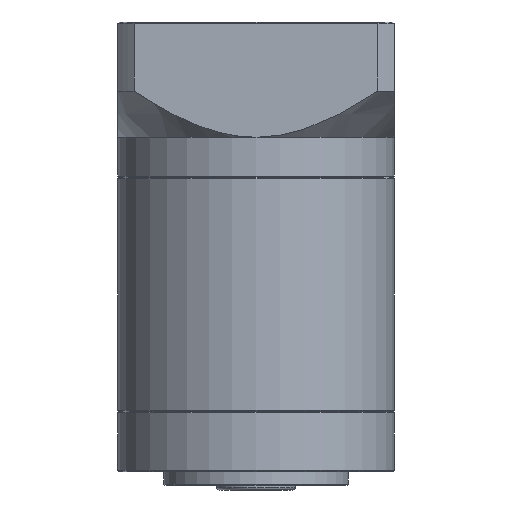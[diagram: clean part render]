
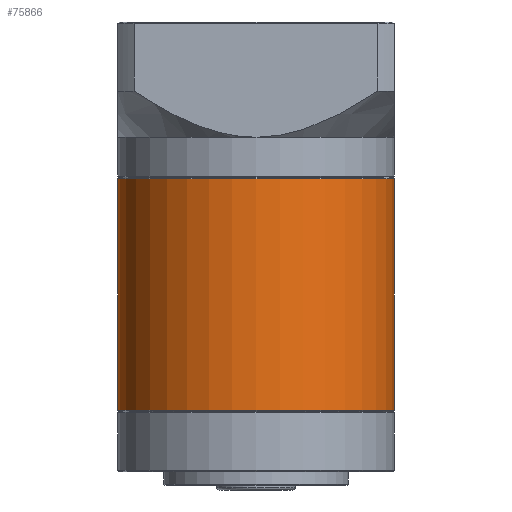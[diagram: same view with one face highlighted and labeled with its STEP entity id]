
A CAD part, front view. The second image highlights one B-rep face of the part: STEP entity #75866.
In plain terms, the highlighted cylindrical face has radius 30 mm (diameter 60 mm), a partial arc.
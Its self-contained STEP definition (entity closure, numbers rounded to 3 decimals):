
#2479 = ORIENTED_EDGE ( 'NONE', *, *, #44654, .T. ) ;
#3518 = AXIS2_PLACEMENT_3D ( 'NONE', #77942, #35964, #84967 ) ;
#12206 = EDGE_CURVE ( 'NONE', #82584, #33113, #17289, .T. ) ;
#14901 = CYLINDRICAL_SURFACE ( 'NONE', #82278, 30. ) ;
#17289 = LINE ( 'NONE', #48033, #71004 ) ;
#21564 = CARTESIAN_POINT ( 'NONE',  ( -100.553, 17.545, 4.781 ) ) ;
#22400 = VECTOR ( 'NONE', #29740, 1000. ) ;
#23689 = FACE_OUTER_BOUND ( 'NONE', #65191, .T. ) ;
#25725 = DIRECTION ( 'NONE',  ( 0., 0., 1. ) ) ;
#28777 = VERTEX_POINT ( 'NONE', #21564 ) ;
#29740 = DIRECTION ( 'NONE',  ( 0., 0., -1. ) ) ;
#33113 = VERTEX_POINT ( 'NONE', #64564 ) ;
#34545 = DIRECTION ( 'NONE',  ( 0., 0., -1. ) ) ;
#35964 = DIRECTION ( 'NONE',  ( 0., 0., -1. ) ) ;
#36072 = CARTESIAN_POINT ( 'NONE',  ( -40.553, 17.545, 4.781 ) ) ;
#41003 = LINE ( 'NONE', #43853, #22400 ) ;
#43028 = DIRECTION ( 'NONE',  ( -1., 0., 0. ) ) ;
#43853 = CARTESIAN_POINT ( 'NONE',  ( -100.553, 17.545, 5.031 ) ) ;
#44654 = EDGE_CURVE ( 'NONE', #28777, #60011, #41003, .T. ) ;
#48033 = CARTESIAN_POINT ( 'NONE',  ( -40.553, 17.545, 5.031 ) ) ;
#49798 = DIRECTION ( 'NONE',  ( 0., 0., -1. ) ) ;
#52937 = EDGE_CURVE ( 'NONE', #60011, #33113, #70280, .T. ) ;
#53580 = CARTESIAN_POINT ( 'NONE',  ( -100.553, 17.545, -45.519 ) ) ;
#58747 = EDGE_CURVE ( 'NONE', #82584, #28777, #86957, .T. ) ;
#59147 = ORIENTED_EDGE ( 'NONE', *, *, #12206, .F. ) ;
#60011 = VERTEX_POINT ( 'NONE', #53580 ) ;
#60208 = AXIS2_PLACEMENT_3D ( 'NONE', #67708, #25725, #74784 ) ;
#64564 = CARTESIAN_POINT ( 'NONE',  ( -40.553, 17.545, -45.519 ) ) ;
#65191 = EDGE_LOOP ( 'NONE', ( #59147, #80510, #2479, #78577 ) ) ;
#67708 = CARTESIAN_POINT ( 'NONE',  ( -70.553, 17.545, -45.519 ) ) ;
#70280 = CIRCLE ( 'NONE', #60208, 30. ) ;
#71004 = VECTOR ( 'NONE', #34545, 1000. ) ;
#74784 = DIRECTION ( 'NONE',  ( 1., 0., 0. ) ) ;
#75866 = ADVANCED_FACE ( 'NONE', ( #23689 ), #14901, .T. ) ;
#77942 = CARTESIAN_POINT ( 'NONE',  ( -70.553, 17.545, 4.781 ) ) ;
#78577 = ORIENTED_EDGE ( 'NONE', *, *, #52937, .T. ) ;
#80510 = ORIENTED_EDGE ( 'NONE', *, *, #58747, .T. ) ;
#82278 = AXIS2_PLACEMENT_3D ( 'NONE', #85009, #49798, #43028 ) ;
#82584 = VERTEX_POINT ( 'NONE', #36072 ) ;
#84967 = DIRECTION ( 'NONE',  ( 1., 0., 0. ) ) ;
#85009 = CARTESIAN_POINT ( 'NONE',  ( -70.553, 17.545, 5.031 ) ) ;
#86957 = CIRCLE ( 'NONE', #3518, 30. ) ;
